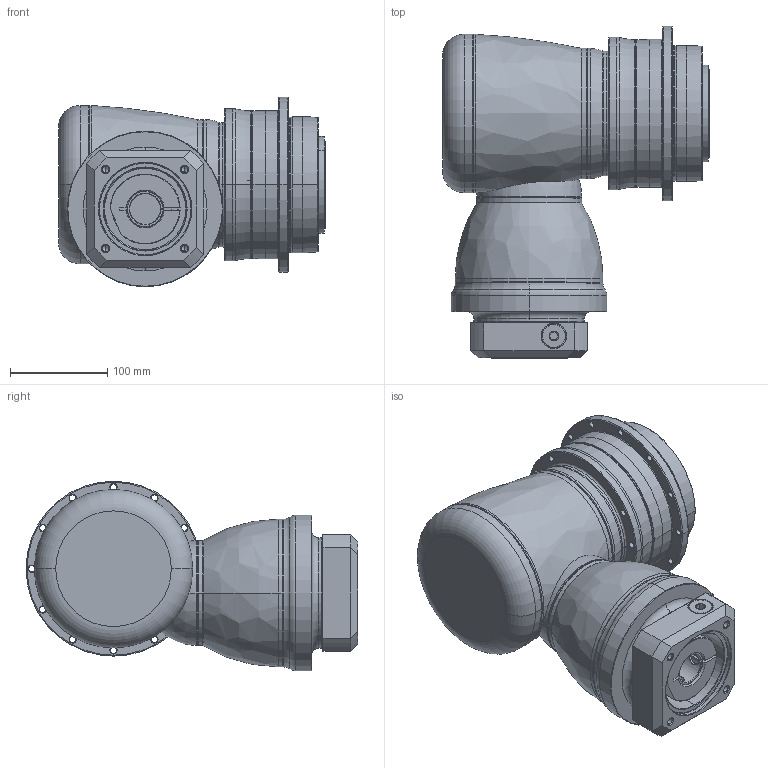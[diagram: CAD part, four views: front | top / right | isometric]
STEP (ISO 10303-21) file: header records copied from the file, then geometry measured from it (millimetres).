
FILE_DESCRIPTION((''),'2;1');
FILE_NAME('AHK140_2ST_32-P0409700101_ASM','2016-09-05T',('d01943'),(''),'PRO/ENGINEER BY PARAMETRIC TECHNOLOGY CORPORATION, 2008410','PRO/ENGINEER BY PARAMETRIC TECHNOLOGY CORPORATION, 2008410','');
FILE_SCHEMA(('CONFIG_CONTROL_DESIGN'));
Length unit declared in the file: millimetre
Products named in the file (12): P1008500002; P1802500011; P0278500003; P0359500002; P1315500001; P1007500001; P1318500201; P0503700010; P0912502201; P0409700101; 21711418017; AHK140_2ST_32-P0409700101_ASM
Assembly tree (11 placements, depth 2):
  AHK140_2ST_32-P0409700101_ASM
    P1008500002
    P1802500011
    P0278500003
    P0359500002
    P1315500001
    P1007500001
    P1318500201
    P0503700010
    P0912502201
    P0409700101
    21711418017
Bounding box: 274.5 x 341.5 x 195 mm (x, y, z)
Volume: 5273124.4 mm3; surface area: 645232.3 mm2
Topology: 12 solids, 12 shells, 858 faces, 1915 edges, 1107 vertices
Faces by surface type: cylinder 307, cone 274, torus 126, plane 124, bspline 25, sphere 2
Entity records: 28639 total; most frequent: CARTESIAN_POINT 9095, DIRECTION 4503, ORIENTED_EDGE 3702, AXIS2_PLACEMENT_3D 1926, EDGE_CURVE 1851, VERTEX_POINT 1107, CIRCLE 1070, EDGE_LOOP 1010
